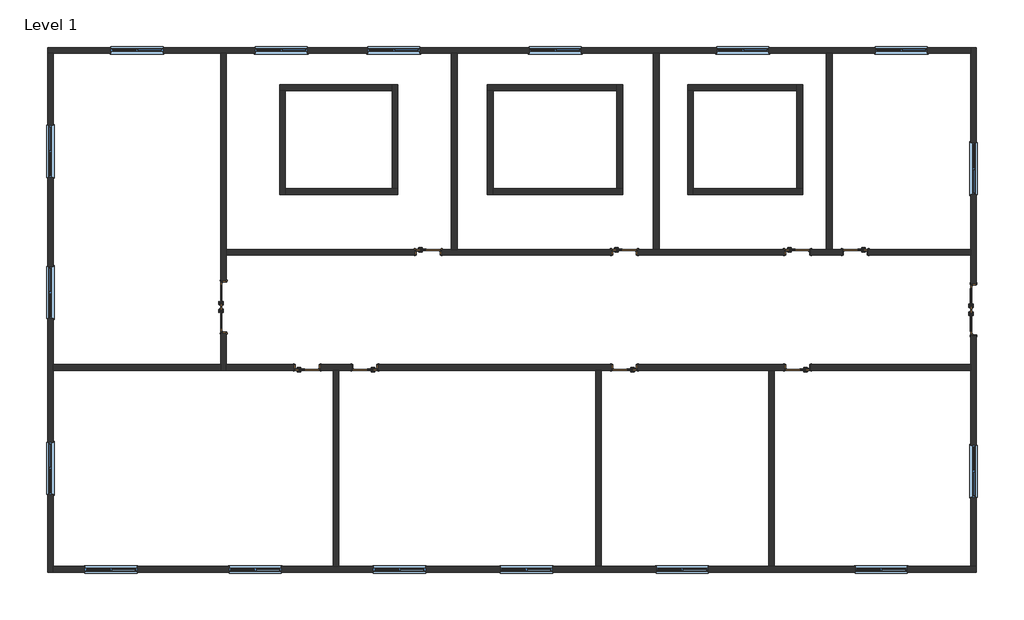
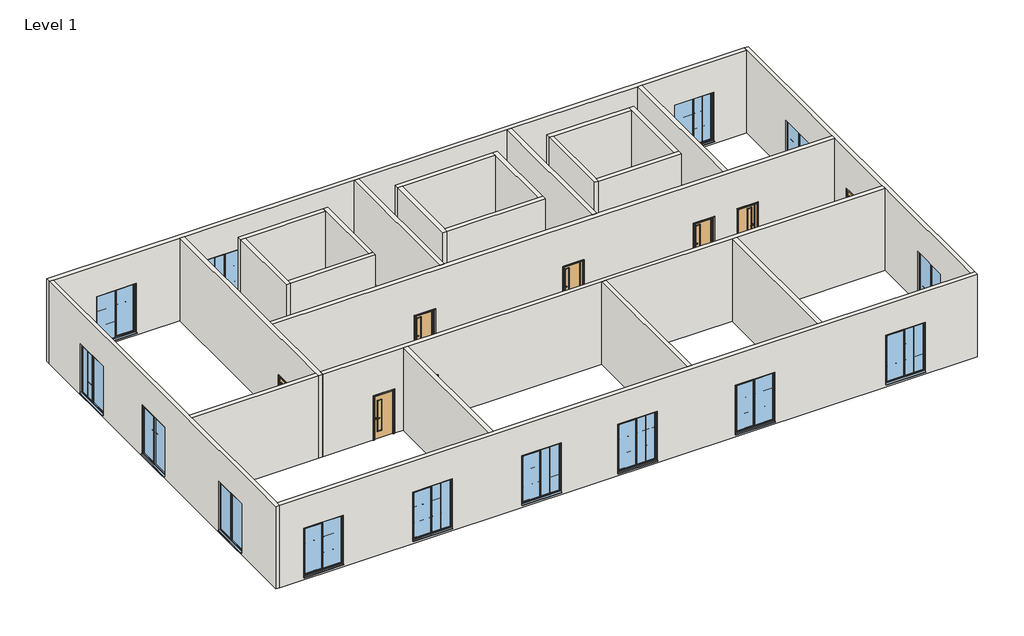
# One storey: 26 walls, 17 windows, 10 doors.
"""IFC4 building model written with IfcOpenShell, lengths in millimetres."""

from ifc_helpers import new_model, si_unit, origin, origin_with_axes, place, context, project, spatial, polyline, outline, extrude, faceted_brep, transform, mapped, element, save
from components import doors_intdbl_8_1810x2110mm_084b1bbc, doors_intsgl_2_910x2110mm_9519ea66, doors_intsgl_2_910x2110mm_8edc93dc, windows_dbl_all_bars_1810x1210mm_8c694ecc

model = new_model("IFC4")

# Units and contexts
model_context = context("Model", 3, world=origin())
ifc_project = project(units=[si_unit("LENGTHUNIT", "METRE", prefix="MILLI")], contexts=[model_context])

# Site, building, storey
site = spatial("IfcSite", under=ifc_project)
building = spatial("IfcBuilding", under=site)
storey = spatial("IfcBuildingStorey", under=building, Name="Level 1", Elevation=0.0)

# Doors
placement = place(None, origin())
doors_intdbl_8_1810x2110mm_shape = doors_intdbl_8_1810x2110mm_084b1bbc(model_context)
element("IfcDoor", 1, ObjectType="Doors_IntDbl_8 : 1810x2110mm", at=placement, inside=storey, context=model_context, shape_type="MappedRepresentation", body=[
    mapped(doors_intdbl_8_1810x2110mm_shape, transform((17959.8077466, 354.5213934, 0.0), x_axis=(0.0, 1.0, 0.0), y_axis=(-1.0, 0.0, 0.0), z_axis=(0.0, 0.0, 1.0))),
])
element("IfcDoor", 2, ObjectType="Doors_IntDbl_8 : 1810x2110mm", at=placement, inside=storey, context=model_context, shape_type="MappedRepresentation", body=[
    mapped(doors_intdbl_8_1810x2110mm_shape, transform((-8040.1922534, 454.5213934, 0.0), x_axis=(0.0, 1.0, 0.0), y_axis=(-1.0, 0.0, 0.0), z_axis=(0.0, 0.0, 1.0))),
])
doors_intsgl_2_910x2110mm_shape = doors_intsgl_2_910x2110mm_9519ea66(model_context)
element("IfcDoor", 3, ObjectType="Doors_IntSgl_2 : 910x2110mm", at=placement, inside=storey, context=model_context, shape_type="MappedRepresentation", body=[
    mapped(doors_intsgl_2_910x2110mm_shape, transform((-5140.1922534, -1645.4786066, 0.0), x_axis=(1.0, 0.0, 0.0), y_axis=(0.0, 1.0, 0.0), z_axis=(0.0, 0.0, 1.0))),
])
element("IfcDoor", 4, ObjectType="Doors_IntSgl_2 : 910x2110mm", at=placement, inside=storey, context=model_context, shape_type="MappedRepresentation", body=[
    mapped(doors_intsgl_2_910x2110mm_shape, transform((13859.8077466, 2354.5213934, 0.0), x_axis=(-1.0, 0.0, 0.0), y_axis=(0.0, -1.0, 0.0), z_axis=(0.0, 0.0, 1.0))),
])
doors_intsgl_2_910x2110mm_2_shape = doors_intsgl_2_910x2110mm_8edc93dc(model_context)
element("IfcDoor", 5, ObjectType="Doors_IntSgl_2 : 910x2110mm", at=placement, inside=storey, context=model_context, shape_type="MappedRepresentation", body=[
    mapped(doors_intsgl_2_910x2110mm_2_shape, transform((-940.1922534, 2354.5213934, 0.0), x_axis=(1.0, 0.0, 0.0), y_axis=(0.0, 1.0, 0.0), z_axis=(0.0, 0.0, 1.0))),
])
element("IfcDoor", 6, ObjectType="Doors_IntSgl_2 : 910x2110mm", at=placement, inside=storey, context=model_context, shape_type="MappedRepresentation", body=[
    mapped(doors_intsgl_2_910x2110mm_2_shape, transform((5859.8077466, 2354.5213934, 0.0), x_axis=(1.0, 0.0, 0.0), y_axis=(0.0, 1.0, 0.0), z_axis=(0.0, 0.0, 1.0))),
])
element("IfcDoor", 7, ObjectType="Doors_IntSgl_2 : 910x2110mm", at=placement, inside=storey, context=model_context, shape_type="MappedRepresentation", body=[
    mapped(doors_intsgl_2_910x2110mm_2_shape, transform((11859.8077466, 2354.5213934, 0.0), x_axis=(1.0, 0.0, 0.0), y_axis=(0.0, 1.0, 0.0), z_axis=(0.0, 0.0, 1.0))),
])
element("IfcDoor", 8, ObjectType="Doors_IntSgl_2 : 910x2110mm", at=placement, inside=storey, context=model_context, shape_type="MappedRepresentation", body=[
    mapped(doors_intsgl_2_910x2110mm_2_shape, transform((11859.8077466, -1645.4786066, 0.0), x_axis=(-1.0, 0.0, 0.0), y_axis=(0.0, -1.0, 0.0), z_axis=(0.0, 0.0, 1.0))),
])
element("IfcDoor", 9, ObjectType="Doors_IntSgl_2 : 910x2110mm", at=placement, inside=storey, context=model_context, shape_type="MappedRepresentation", body=[
    mapped(doors_intsgl_2_910x2110mm_2_shape, transform((5859.8077466, -1645.4786066, 0.0), x_axis=(-1.0, 0.0, 0.0), y_axis=(0.0, -1.0, 0.0), z_axis=(0.0, 0.0, 1.0))),
])
element("IfcDoor", 10, ObjectType="Doors_IntSgl_2 : 910x2110mm", at=placement, inside=storey, context=model_context, shape_type="MappedRepresentation", body=[
    mapped(doors_intsgl_2_910x2110mm_2_shape, transform((-3140.1922534, -1645.4786066, 0.0), x_axis=(-1.0, 0.0, 0.0), y_axis=(0.0, -1.0, 0.0), z_axis=(0.0, 0.0, 1.0))),
])

# Walls
element("IfcWall", 11, ObjectType="Generic - 200mm", at=placement, inside=storey, context=model_context, shape_type="Brep", body=[
    faceted_brep([(-14140.1922534, 9254.5213934, 0.0), (-13940.1922534, 9254.5213934, 0.0), (-8140.1922534, 9254.5213934, 0.0), (-7940.1922534, 9254.5213934, 0.0), (-140.1922534, 9254.5213934, 0.0), (59.8077466, 9254.5213934, 0.0), (6859.8077466, 9254.5213934, 0.0), (7059.8077466, 9254.5213934, 0.0), (12859.8077466, 9254.5213934, 0.0), (13059.8077466, 9254.5213934, 0.0), (17859.8077466, 9254.5213934, 0.0), (17859.8077466, 9254.5213934, 4000.0), (13059.8077466, 9254.5213934, 4000.0), (12859.8077466, 9254.5213934, 4000.0), (7059.8077466, 9254.5213934, 4000.0), (6859.8077466, 9254.5213934, 4000.0), (59.8077466, 9254.5213934, 4000.0), (-140.1922534, 9254.5213934, 4000.0), (-7940.1922534, 9254.5213934, 4000.0), (-8140.1922534, 9254.5213934, 4000.0), (-13940.1922534, 9254.5213934, 4000.0), (-14140.1922534, 9254.5213934, 4000.0), (-11945.1922534, 9254.5213934, 100.0), (-11945.1922534, 9254.5213934, 2500.0), (-10135.1922534, 9254.5213934, 2500.0), (-10135.1922534, 9254.5213934, 100.0), (-6945.1922534, 9254.5213934, 100.0), (-6945.1922534, 9254.5213934, 2500.0), (-5135.1922534, 9254.5213934, 2500.0), (-5135.1922534, 9254.5213934, 100.0), (-3045.1922534, 9254.5213934, 100.0), (-3045.1922534, 9254.5213934, 2500.0), (-1235.1922534, 9254.5213934, 2500.0), (-1235.1922534, 9254.5213934, 100.0), (2554.8077466, 9254.5213934, 100.0), (2554.8077466, 9254.5213934, 2500.0), (4364.8077466, 9254.5213934, 2500.0), (4364.8077466, 9254.5213934, 100.0), (9054.8077466, 9254.5213934, 100.0), (9054.8077466, 9254.5213934, 2500.0), (10864.8077466, 9254.5213934, 2500.0), (10864.8077466, 9254.5213934, 100.0), (14554.8077466, 9254.5213934, 100.0), (14554.8077466, 9254.5213934, 2500.0), (16364.8077466, 9254.5213934, 2500.0), (16364.8077466, 9254.5213934, 100.0), (17859.8077466, 9454.5213934, 0.0), (-14140.1922534, 9454.5213934, 0.0), (-14140.1922534, 9454.5213934, 4000.0), (17859.8077466, 9454.5213934, 4000.0), (-11945.1922534, 9454.5213934, 2500.0), (-11945.1922534, 9454.5213934, 100.0), (-10135.1922534, 9454.5213934, 100.0), (-10135.1922534, 9454.5213934, 2500.0), (-6945.1922534, 9454.5213934, 2500.0), (-6945.1922534, 9454.5213934, 100.0), (-5135.1922534, 9454.5213934, 100.0), (-5135.1922534, 9454.5213934, 2500.0), (-3045.1922534, 9454.5213934, 2500.0), (-3045.1922534, 9454.5213934, 100.0), (-1235.1922534, 9454.5213934, 100.0), (-1235.1922534, 9454.5213934, 2500.0), (2554.8077466, 9454.5213934, 2500.0), (2554.8077466, 9454.5213934, 100.0), (4364.8077466, 9454.5213934, 100.0), (4364.8077466, 9454.5213934, 2500.0), (9054.8077466, 9454.5213934, 2500.0), (9054.8077466, 9454.5213934, 100.0), (10864.8077466, 9454.5213934, 100.0), (10864.8077466, 9454.5213934, 2500.0), (14554.8077466, 9454.5213934, 2500.0), (14554.8077466, 9454.5213934, 100.0), (16364.8077466, 9454.5213934, 100.0), (16364.8077466, 9454.5213934, 2500.0)], [[[0, 1, 2, 3, 4, 5, 6, 7, 8, 9, 10, 11, 12, 13, 14, 15, 16, 17, 18, 19, 20, 21], [22, 23, 24, 25], [26, 27, 28, 29], [30, 31, 32, 33], [34, 35, 36, 37], [38, 39, 40, 41], [42, 43, 44, 45]], [[46, 47, 48, 49], [50, 51, 52, 53], [54, 55, 56, 57], [58, 59, 60, 61], [62, 63, 64, 65], [66, 67, 68, 69], [70, 71, 72, 73]], [[10, 9, 8, 7, 6, 5, 4, 3, 2, 1, 0, 47, 46]], [[21, 20, 19, 18, 17, 16, 15, 14, 13, 12, 11, 49, 48]], [[0, 21, 48, 47]], [[11, 10, 46, 49]], [[50, 23, 22, 51]], [[24, 53, 52, 25]], [[23, 50, 53, 24]], [[54, 27, 26, 55]], [[28, 57, 56, 29]], [[27, 54, 57, 28]], [[58, 31, 30, 59]], [[32, 61, 60, 33]], [[31, 58, 61, 32]], [[62, 35, 34, 63]], [[36, 65, 64, 37]], [[35, 62, 65, 36]], [[66, 39, 38, 67]], [[40, 69, 68, 41]], [[39, 66, 69, 40]], [[70, 43, 42, 71]], [[72, 45, 44, 73]], [[43, 70, 73, 44]], [[25, 52, 51, 22]], [[29, 56, 55, 26]], [[33, 60, 59, 30]], [[37, 64, 63, 34]], [[41, 68, 67, 38]], [[45, 72, 71, 42]]]),
])
element("IfcWall", 12, ObjectType="Generic - 200mm", at=placement, inside=storey, context=model_context, shape_type="Brep", body=[
    faceted_brep([(-13940.1922534, -8745.4786066, 0.0), (-13940.1922534, -8545.4786066, 0.0), (-13940.1922534, -1745.4786066, 0.0), (-13940.1922534, -1545.4786066, 0.0), (-13940.1922534, 9254.5213934, 0.0), (-13940.1922534, 9254.5213934, 4000.0), (-13940.1922534, -1545.4786066, 4000.0), (-13940.1922534, -1745.4786066, 4000.0), (-13940.1922534, -8545.4786066, 4000.0), (-13940.1922534, -8745.4786066, 4000.0), (-13940.1922534, -6050.4786066, 100.0), (-13940.1922534, -6050.4786066, 2500.0), (-13940.1922534, -4240.4786066, 2500.0), (-13940.1922534, -4240.4786066, 100.0), (-13940.1922534, 49.5213934, 100.0), (-13940.1922534, 49.5213934, 2500.0), (-13940.1922534, 1859.5213934, 2500.0), (-13940.1922534, 1859.5213934, 100.0), (-13940.1922534, 4949.5213934, 100.0), (-13940.1922534, 4949.5213934, 2500.0), (-13940.1922534, 6759.5213934, 2500.0), (-13940.1922534, 6759.5213934, 100.0), (-14140.1922534, 9254.5213934, 0.0), (-14140.1922534, -8745.4786066, 0.0), (-14140.1922534, -8745.4786066, 4000.0), (-14140.1922534, 9254.5213934, 4000.0), (-14140.1922534, -6050.4786066, 2500.0), (-14140.1922534, -6050.4786066, 100.0), (-14140.1922534, -4240.4786066, 100.0), (-14140.1922534, -4240.4786066, 2500.0), (-14140.1922534, 49.5213934, 2500.0), (-14140.1922534, 49.5213934, 100.0), (-14140.1922534, 1859.5213934, 100.0), (-14140.1922534, 1859.5213934, 2500.0), (-14140.1922534, 4949.5213934, 2500.0), (-14140.1922534, 4949.5213934, 100.0), (-14140.1922534, 6759.5213934, 100.0), (-14140.1922534, 6759.5213934, 2500.0)], [[[0, 1, 2, 3, 4, 5, 6, 7, 8, 9], [10, 11, 12, 13], [14, 15, 16, 17], [18, 19, 20, 21]], [[22, 23, 24, 25], [26, 27, 28, 29], [30, 31, 32, 33], [34, 35, 36, 37]], [[4, 3, 2, 1, 0, 23, 22]], [[9, 8, 7, 6, 5, 25, 24]], [[0, 9, 24, 23]], [[5, 4, 22, 25]], [[26, 11, 10, 27]], [[12, 29, 28, 13]], [[11, 26, 29, 12]], [[30, 15, 14, 31]], [[16, 33, 32, 17]], [[15, 30, 33, 16]], [[34, 19, 18, 35]], [[36, 21, 20, 37]], [[19, 34, 37, 20]], [[13, 28, 27, 10]], [[17, 32, 31, 14]], [[21, 36, 35, 18]]]),
])
element("IfcWall", 13, ObjectType="Generic - 200mm", at=placement, inside=storey, context=model_context, shape_type="Brep", body=[
    faceted_brep([(18059.8077466, -8545.4786066, 0.0), (17859.8077466, -8545.4786066, 0.0), (11059.8077466, -8545.4786066, 0.0), (10859.8077466, -8545.4786066, 0.0), (5059.8077466, -8545.4786066, 0.0), (4859.8077466, -8545.4786066, 0.0), (-4040.1922534, -8545.4786066, 0.0), (-4240.1922534, -8545.4786066, 0.0), (-13940.1922534, -8545.4786066, 0.0), (-13940.1922534, -8545.4786066, 4000.0), (-4240.1922534, -8545.4786066, 4000.0), (-4040.1922534, -8545.4786066, 4000.0), (4859.8077466, -8545.4786066, 4000.0), (5059.8077466, -8545.4786066, 4000.0), (10859.8077466, -8545.4786066, 4000.0), (11059.8077466, -8545.4786066, 4000.0), (17859.8077466, -8545.4786066, 4000.0), (18059.8077466, -8545.4786066, 4000.0), (-11035.1922534, -8545.4786066, 2500.0), (-12845.1922534, -8545.4786066, 2500.0), (-12845.1922534, -8545.4786066, 100.0), (-11035.1922534, -8545.4786066, 100.0), (-6035.1922534, -8545.4786066, 2500.0), (-7845.1922534, -8545.4786066, 2500.0), (-7845.1922534, -8545.4786066, 100.0), (-6035.1922534, -8545.4786066, 100.0), (-1035.1922534, -8545.4786066, 2500.0), (-2845.1922534, -8545.4786066, 2500.0), (-2845.1922534, -8545.4786066, 100.0), (-1035.1922534, -8545.4786066, 100.0), (3364.8077466, -8545.4786066, 2500.0), (1554.8077466, -8545.4786066, 2500.0), (1554.8077466, -8545.4786066, 100.0), (3364.8077466, -8545.4786066, 100.0), (8764.8077466, -8545.4786066, 2500.0), (6954.8077466, -8545.4786066, 2500.0), (6954.8077466, -8545.4786066, 100.0), (8764.8077466, -8545.4786066, 100.0), (15664.8077466, -8545.4786066, 2500.0), (13854.8077466, -8545.4786066, 2500.0), (13854.8077466, -8545.4786066, 100.0), (15664.8077466, -8545.4786066, 100.0), (18059.8077466, -8745.4786066, 0.0), (18059.8077466, -8745.4786066, 4000.0), (-13940.1922534, -8745.4786066, 4000.0), (-13940.1922534, -8745.4786066, 0.0), (-11035.1922534, -8745.4786066, 2500.0), (-11035.1922534, -8745.4786066, 100.0), (-12845.1922534, -8745.4786066, 100.0), (-12845.1922534, -8745.4786066, 2500.0), (-6035.1922534, -8745.4786066, 2500.0), (-6035.1922534, -8745.4786066, 100.0), (-7845.1922534, -8745.4786066, 100.0), (-7845.1922534, -8745.4786066, 2500.0), (-1035.1922534, -8745.4786066, 2500.0), (-1035.1922534, -8745.4786066, 100.0), (-2845.1922534, -8745.4786066, 100.0), (-2845.1922534, -8745.4786066, 2500.0), (3364.8077466, -8745.4786066, 2500.0), (3364.8077466, -8745.4786066, 100.0), (1554.8077466, -8745.4786066, 100.0), (1554.8077466, -8745.4786066, 2500.0), (8764.8077466, -8745.4786066, 2500.0), (8764.8077466, -8745.4786066, 100.0), (6954.8077466, -8745.4786066, 100.0), (6954.8077466, -8745.4786066, 2500.0), (15664.8077466, -8745.4786066, 2500.0), (15664.8077466, -8745.4786066, 100.0), (13854.8077466, -8745.4786066, 100.0), (13854.8077466, -8745.4786066, 2500.0)], [[[0, 1, 2, 3, 4, 5, 6, 7, 8, 9, 10, 11, 12, 13, 14, 15, 16, 17], [18, 19, 20, 21], [22, 23, 24, 25], [26, 27, 28, 29], [30, 31, 32, 33], [34, 35, 36, 37], [38, 39, 40, 41]], [[42, 43, 44, 45], [46, 47, 48, 49], [50, 51, 52, 53], [54, 55, 56, 57], [58, 59, 60, 61], [62, 63, 64, 65], [66, 67, 68, 69]], [[8, 7, 6, 5, 4, 3, 2, 1, 0, 42, 45]], [[17, 16, 15, 14, 13, 12, 11, 10, 9, 44, 43]], [[0, 17, 43, 42]], [[9, 8, 45, 44]], [[47, 46, 18, 21]], [[48, 47, 21, 20]], [[49, 48, 20, 19]], [[46, 49, 19, 18]], [[51, 50, 22, 25]], [[52, 51, 25, 24]], [[53, 52, 24, 23]], [[50, 53, 23, 22]], [[55, 54, 26, 29]], [[56, 55, 29, 28]], [[57, 56, 28, 27]], [[54, 57, 27, 26]], [[59, 58, 30, 33]], [[60, 59, 33, 32]], [[61, 60, 32, 31]], [[58, 61, 31, 30]], [[63, 62, 34, 37]], [[64, 63, 37, 36]], [[65, 64, 36, 35]], [[62, 65, 35, 34]], [[67, 66, 38, 41]], [[68, 67, 41, 40]], [[69, 68, 40, 39]], [[66, 69, 39, 38]]]),
])
element("IfcWall", 14, ObjectType="Generic - 200mm", at=placement, inside=storey, context=model_context, shape_type="Brep", body=[
    faceted_brep([(17859.8077466, -8545.4786066, 4000.0), (17859.8077466, -1745.4786066, 4000.0), (17859.8077466, -1545.4786066, 4000.0), (17859.8077466, 2254.5213934, 4000.0), (17859.8077466, 2454.5213934, 4000.0), (17859.8077466, 9254.5213934, 4000.0), (17859.8077466, 9454.5213934, 4000.0), (17859.8077466, 9454.5213934, 0.0), (17859.8077466, 9254.5213934, 0.0), (17859.8077466, 2454.5213934, 0.0), (17859.8077466, 2254.5213934, 0.0), (17859.8077466, 1259.5213934, 0.0), (17859.8077466, 1259.5213934, 2110.0), (17859.8077466, -550.4786066, 2110.0), (17859.8077466, -550.4786066, 0.0), (17859.8077466, -1545.4786066, 0.0), (17859.8077466, -1745.4786066, 0.0), (17859.8077466, -8545.4786066, 0.0), (17859.8077466, 6159.5213934, 100.0), (17859.8077466, 6159.5213934, 2500.0), (17859.8077466, 4349.5213934, 2500.0), (17859.8077466, 4349.5213934, 100.0), (17859.8077466, -4340.4786066, 100.0), (17859.8077466, -4340.4786066, 2500.0), (17859.8077466, -6150.4786066, 2500.0), (17859.8077466, -6150.4786066, 100.0), (18059.8077466, 9454.5213934, 4000.0), (18059.8077466, -8545.4786066, 4000.0), (18059.8077466, -8545.4786066, 0.0), (18059.8077466, -550.4786066, 0.0), (18059.8077466, -550.4786066, 2110.0), (18059.8077466, 1259.5213934, 2110.0), (18059.8077466, 1259.5213934, 0.0), (18059.8077466, 9454.5213934, 0.0), (18059.8077466, 6159.5213934, 2500.0), (18059.8077466, 6159.5213934, 100.0), (18059.8077466, 4349.5213934, 100.0), (18059.8077466, 4349.5213934, 2500.0), (18059.8077466, -4340.4786066, 2500.0), (18059.8077466, -4340.4786066, 100.0), (18059.8077466, -6150.4786066, 100.0), (18059.8077466, -6150.4786066, 2500.0)], [[[0, 1, 2, 3, 4, 5, 6, 7, 8, 9, 10, 11, 12, 13, 14, 15, 16, 17], [18, 19, 20, 21], [22, 23, 24, 25]], [[26, 27, 28, 29, 30, 31, 32, 33], [34, 35, 36, 37], [38, 39, 40, 41]], [[7, 33, 32, 11, 10, 9, 8]], [[28, 17, 16, 15, 14, 29]], [[6, 5, 4, 3, 2, 1, 0, 27, 26]], [[7, 6, 26, 33]], [[0, 17, 28, 27]], [[12, 11, 32, 31]], [[13, 12, 31, 30]], [[14, 13, 30, 29]], [[34, 19, 18, 35]], [[20, 37, 36, 21]], [[19, 34, 37, 20]], [[38, 23, 22, 39]], [[40, 25, 24, 41]], [[23, 38, 41, 24]], [[21, 36, 35, 18]], [[25, 40, 39, 22]]]),
])
element("IfcWall", 15, ObjectType="Generic - 200mm", at=placement, inside=storey, context=model_context, shape_type="Brep", body=[
    faceted_brep([(-8140.1922534, -1745.4786066, 4000.0), (-8140.1922534, -1545.4786066, 4000.0), (-8140.1922534, 9254.5213934, 4000.0), (-8140.1922534, 9254.5213934, 0.0), (-8140.1922534, 1359.5213934, 0.0), (-8140.1922534, 1359.5213934, 2110.0), (-8140.1922534, -450.4786066, 2110.0), (-8140.1922534, -450.4786066, 0.0), (-8140.1922534, -1545.4786066, 0.0), (-8140.1922534, -1745.4786066, 0.0), (-7940.1922534, 9254.5213934, 4000.0), (-7940.1922534, 2454.5213934, 4000.0), (-7940.1922534, 2254.5213934, 4000.0), (-7940.1922534, -1545.4786066, 4000.0), (-7940.1922534, -1745.4786066, 4000.0), (-7940.1922534, -1745.4786066, 0.0), (-7940.1922534, -1545.4786066, 0.0), (-7940.1922534, -450.4786066, 0.0), (-7940.1922534, -450.4786066, 2110.0), (-7940.1922534, 1359.5213934, 2110.0), (-7940.1922534, 1359.5213934, 0.0), (-7940.1922534, 2254.5213934, 0.0), (-7940.1922534, 2454.5213934, 0.0), (-7940.1922534, 9254.5213934, 0.0)], [[[0, 1, 2, 3, 4, 5, 6, 7, 8, 9]], [[10, 11, 12, 13, 14, 15, 16, 17, 18, 19, 20, 21, 22, 23]], [[3, 23, 22, 21, 20, 4]], [[15, 9, 8, 7, 17, 16]], [[2, 1, 0, 14, 13, 12, 11, 10]], [[3, 2, 10, 23]], [[0, 9, 15, 14]], [[19, 5, 4, 20]], [[5, 19, 18, 6]], [[6, 18, 17, 7]]]),
])
element("IfcWall", 16, ObjectType="Generic - 200mm", at=placement, inside=storey, context=model_context, shape_type="Brep", body=[
    faceted_brep([(17859.8077466, 2254.5213934, 4000.0), (-7940.1922534, 2254.5213934, 4000.0), (-7940.1922534, 2254.5213934, 0.0), (-1395.1922534, 2254.5213934, 0.0), (-1395.1922534, 2254.5213934, 2110.0), (-485.1922534, 2254.5213934, 2110.0), (-485.1922534, 2254.5213934, 0.0), (5404.8077466, 2254.5213934, 0.0), (5404.8077466, 2254.5213934, 2110.0), (6314.8077466, 2254.5213934, 2110.0), (6314.8077466, 2254.5213934, 0.0), (11404.8077466, 2254.5213934, 0.0), (11404.8077466, 2254.5213934, 2110.0), (12314.8077466, 2254.5213934, 2110.0), (12314.8077466, 2254.5213934, 0.0), (13404.8077466, 2254.5213934, 0.0), (13404.8077466, 2254.5213934, 2110.0), (14314.8077466, 2254.5213934, 2110.0), (14314.8077466, 2254.5213934, 0.0), (17859.8077466, 2254.5213934, 0.0), (-7940.1922534, 2454.5213934, 4000.0), (-140.1922534, 2454.5213934, 4000.0), (59.8077466, 2454.5213934, 4000.0), (6859.8077466, 2454.5213934, 4000.0), (7059.8077466, 2454.5213934, 4000.0), (12859.8077466, 2454.5213934, 4000.0), (13059.8077466, 2454.5213934, 4000.0), (17859.8077466, 2454.5213934, 4000.0), (17859.8077466, 2454.5213934, 0.0), (14314.8077466, 2454.5213934, 0.0), (14314.8077466, 2454.5213934, 2110.0), (13404.8077466, 2454.5213934, 2110.0), (13404.8077466, 2454.5213934, 0.0), (13059.8077466, 2454.5213934, 0.0), (12859.8077466, 2454.5213934, 0.0), (12314.8077466, 2454.5213934, 0.0), (12314.8077466, 2454.5213934, 2110.0), (11404.8077466, 2454.5213934, 2110.0), (11404.8077466, 2454.5213934, 0.0), (7059.8077466, 2454.5213934, 0.0), (6859.8077466, 2454.5213934, 0.0), (6314.8077466, 2454.5213934, 0.0), (6314.8077466, 2454.5213934, 2110.0), (5404.8077466, 2454.5213934, 2110.0), (5404.8077466, 2454.5213934, 0.0), (59.8077466, 2454.5213934, 0.0), (-140.1922534, 2454.5213934, 0.0), (-485.1922534, 2454.5213934, 0.0), (-485.1922534, 2454.5213934, 2110.0), (-1395.1922534, 2454.5213934, 2110.0), (-1395.1922534, 2454.5213934, 0.0), (-7940.1922534, 2454.5213934, 0.0)], [[[0, 1, 2, 3, 4, 5, 6, 7, 8, 9, 10, 11, 12, 13, 14, 15, 16, 17, 18, 19]], [[20, 21, 22, 23, 24, 25, 26, 27, 28, 29, 30, 31, 32, 33, 34, 35, 36, 37, 38, 39, 40, 41, 42, 43, 44, 45, 46, 47, 48, 49, 50, 51]], [[2, 51, 50, 3]], [[28, 19, 18, 29]], [[6, 47, 46, 45, 44, 7]], [[10, 41, 40, 39, 38, 11]], [[14, 35, 34, 33, 32, 15]], [[1, 0, 27, 26, 25, 24, 23, 22, 21, 20]], [[0, 19, 28, 27]], [[2, 1, 20, 51]], [[5, 48, 47, 6]], [[48, 5, 4, 49]], [[49, 4, 3, 50]], [[9, 42, 41, 10]], [[42, 9, 8, 43]], [[43, 8, 7, 44]], [[13, 36, 35, 14]], [[36, 13, 12, 37]], [[37, 12, 11, 38]], [[31, 16, 15, 32]], [[16, 31, 30, 17]], [[17, 30, 29, 18]]]),
])
element("IfcWall", 17, ObjectType="Generic - 200mm", at=placement, inside=storey, context=model_context, shape_type="Brep", body=[
    faceted_brep([(17859.8077466, -1745.4786066, 4000.0), (11059.8077466, -1745.4786066, 4000.0), (10859.8077466, -1745.4786066, 4000.0), (5059.8077466, -1745.4786066, 4000.0), (4859.8077466, -1745.4786066, 4000.0), (-4040.1922534, -1745.4786066, 4000.0), (-4240.1922534, -1745.4786066, 4000.0), (-7940.1922534, -1745.4786066, 4000.0), (-7940.1922534, -1745.4786066, 0.0), (-5595.1922534, -1745.4786066, 0.0), (-5595.1922534, -1745.4786066, 2110.0), (-4685.1922534, -1745.4786066, 2110.0), (-4685.1922534, -1745.4786066, 0.0), (-4240.1922534, -1745.4786066, 0.0), (-4040.1922534, -1745.4786066, 0.0), (-3595.1922534, -1745.4786066, 0.0), (-3595.1922534, -1745.4786066, 2110.0), (-2685.1922534, -1745.4786066, 2110.0), (-2685.1922534, -1745.4786066, 0.0), (4859.8077466, -1745.4786066, 0.0), (5059.8077466, -1745.4786066, 0.0), (5404.8077466, -1745.4786066, 0.0), (5404.8077466, -1745.4786066, 2110.0), (6314.8077466, -1745.4786066, 2110.0), (6314.8077466, -1745.4786066, 0.0), (10859.8077466, -1745.4786066, 0.0), (11059.8077466, -1745.4786066, 0.0), (11404.8077466, -1745.4786066, 0.0), (11404.8077466, -1745.4786066, 2110.0), (12314.8077466, -1745.4786066, 2110.0), (12314.8077466, -1745.4786066, 0.0), (17859.8077466, -1745.4786066, 0.0), (-7940.1922534, -1545.4786066, 4000.0), (17859.8077466, -1545.4786066, 4000.0), (17859.8077466, -1545.4786066, 0.0), (12314.8077466, -1545.4786066, 0.0), (12314.8077466, -1545.4786066, 2110.0), (11404.8077466, -1545.4786066, 2110.0), (11404.8077466, -1545.4786066, 0.0), (6314.8077466, -1545.4786066, 0.0), (6314.8077466, -1545.4786066, 2110.0), (5404.8077466, -1545.4786066, 2110.0), (5404.8077466, -1545.4786066, 0.0), (-2685.1922534, -1545.4786066, 0.0), (-2685.1922534, -1545.4786066, 2110.0), (-3595.1922534, -1545.4786066, 2110.0), (-3595.1922534, -1545.4786066, 0.0), (-4685.1922534, -1545.4786066, 0.0), (-4685.1922534, -1545.4786066, 2110.0), (-5595.1922534, -1545.4786066, 2110.0), (-5595.1922534, -1545.4786066, 0.0), (-7940.1922534, -1545.4786066, 0.0)], [[[0, 1, 2, 3, 4, 5, 6, 7, 8, 9, 10, 11, 12, 13, 14, 15, 16, 17, 18, 19, 20, 21, 22, 23, 24, 25, 26, 27, 28, 29, 30, 31]], [[32, 33, 34, 35, 36, 37, 38, 39, 40, 41, 42, 43, 44, 45, 46, 47, 48, 49, 50, 51]], [[34, 31, 30, 35]], [[8, 51, 50, 9]], [[12, 47, 46, 15, 14, 13]], [[38, 27, 26, 25, 24, 39]], [[42, 21, 20, 19, 18, 43]], [[7, 6, 5, 4, 3, 2, 1, 0, 33, 32]], [[0, 31, 34, 33]], [[8, 7, 32, 51]], [[11, 48, 47, 12]], [[48, 11, 10, 49]], [[49, 10, 9, 50]], [[37, 28, 27, 38]], [[28, 37, 36, 29]], [[29, 36, 35, 30]], [[41, 22, 21, 42]], [[22, 41, 40, 23]], [[23, 40, 39, 24]], [[45, 16, 15, 46]], [[16, 45, 44, 17]], [[17, 44, 43, 18]]]),
])
element("IfcWall", 18, ObjectType="Generic - 200mm", at=placement, inside=storey, context=model_context, shape_type="SweptSolid", body=[
    extrude(outline(polyline([(59.8077466, 9254.5213934), (59.8077466, 2454.5213934), (-140.1922534, 2454.5213934), (-140.1922534, 9254.5213934), (59.8077466, 9254.5213934)])), origin_with_axes(), (0.0, 0.0, 1.0), 4000.0),
])
element("IfcWall", 19, ObjectType="Generic - 200mm", at=placement, inside=storey, context=model_context, shape_type="SweptSolid", body=[
    extrude(outline(polyline([(7059.8077466, 9254.5213934), (7059.8077466, 2454.5213934), (6859.8077466, 2454.5213934), (6859.8077466, 9254.5213934), (7059.8077466, 9254.5213934)])), origin_with_axes(), (0.0, 0.0, 1.0), 4000.0),
])
element("IfcWall", 20, ObjectType="Generic - 200mm", at=placement, inside=storey, context=model_context, shape_type="SweptSolid", body=[
    extrude(outline(polyline([(13059.8077466, 9254.5213934), (13059.8077466, 2454.5213934), (12859.8077466, 2454.5213934), (12859.8077466, 9254.5213934), (13059.8077466, 9254.5213934)])), origin_with_axes(), (0.0, 0.0, 1.0), 4000.0),
])
element("IfcWall", 21, ObjectType="Generic - 200mm", at=placement, inside=storey, context=model_context, shape_type="SweptSolid", body=[
    extrude(outline(polyline([(-4240.1922534, -8545.4786066), (-4240.1922534, -1745.4786066), (-4040.1922534, -1745.4786066), (-4040.1922534, -8545.4786066), (-4240.1922534, -8545.4786066)])), origin_with_axes(), (0.0, 0.0, 1.0), 4000.0),
])
element("IfcWall", 22, ObjectType="Generic - 200mm", at=placement, inside=storey, context=model_context, shape_type="SweptSolid", body=[
    extrude(outline(polyline([(4859.8077466, -8545.4786066), (4859.8077466, -1745.4786066), (5059.8077466, -1745.4786066), (5059.8077466, -8545.4786066), (4859.8077466, -8545.4786066)])), origin_with_axes(), (0.0, 0.0, 1.0), 4000.0),
])
element("IfcWall", 23, ObjectType="Generic - 200mm", at=placement, inside=storey, context=model_context, shape_type="SweptSolid", body=[
    extrude(outline(polyline([(10859.8077466, -8545.4786066), (10859.8077466, -1745.4786066), (11059.8077466, -1745.4786066), (11059.8077466, -8545.4786066), (10859.8077466, -8545.4786066)])), origin_with_axes(), (0.0, 0.0, 1.0), 4000.0),
])
element("IfcWall", 24, ObjectType="Generic - 200mm", at=placement, inside=storey, context=model_context, shape_type="SweptSolid", body=[
    extrude(outline(polyline([(-13940.1922534, -1545.4786066), (-8140.1922534, -1545.4786066), (-8140.1922534, -1745.4786066), (-13940.1922534, -1745.4786066), (-13940.1922534, -1545.4786066)])), origin_with_axes(), (0.0, 0.0, 1.0), 4000.0),
])
element("IfcWall", 25, ObjectType="Generic - 200mm", at=placement, inside=storey, context=model_context, shape_type="Brep", body=[
    faceted_brep([(-6094.5436994, 7960.2061545, 0.0), (-5894.5436994, 7960.2061545, 0.0), (-2194.5436994, 7960.2061545, 0.0), (-2194.5436994, 7960.2061545, 4000.0), (-5894.5436994, 7960.2061545, 4000.0), (-6094.5436994, 7960.2061545, 4000.0), (-6094.5436994, 8160.2061545, 0.0), (-6094.5436994, 8160.2061545, 4000.0), (-2194.5436994, 8160.2061545, 4000.0), (-2194.5436994, 8160.2061545, 0.0)], [[[0, 1, 2, 3, 4, 5]], [[6, 7, 8, 9]], [[2, 1, 0, 6, 9]], [[5, 4, 3, 8, 7]], [[0, 5, 7, 6]], [[3, 2, 9, 8]]]),
])
element("IfcWall", 26, ObjectType="Generic - 200mm", at=placement, inside=storey, context=model_context, shape_type="Brep", body=[
    faceted_brep([(-5894.5436994, 4360.2061545, 0.0), (-5894.5436994, 4560.2061545, 0.0), (-5894.5436994, 7960.2061545, 0.0), (-5894.5436994, 7960.2061545, 4000.0), (-5894.5436994, 4560.2061545, 4000.0), (-5894.5436994, 4360.2061545, 4000.0), (-6094.5436994, 4360.2061545, 0.0), (-6094.5436994, 4360.2061545, 4000.0), (-6094.5436994, 7960.2061545, 4000.0), (-6094.5436994, 7960.2061545, 0.0)], [[[0, 1, 2, 3, 4, 5]], [[6, 7, 8, 9]], [[2, 1, 0, 6, 9]], [[5, 4, 3, 8, 7]], [[0, 5, 7, 6]], [[3, 2, 9, 8]]]),
])
element("IfcWall", 27, ObjectType="Generic - 200mm", at=placement, inside=storey, context=model_context, shape_type="Brep", body=[
    faceted_brep([(-1994.5436994, 4560.2061545, 0.0), (-2194.5436994, 4560.2061545, 0.0), (-5894.5436994, 4560.2061545, 0.0), (-5894.5436994, 4560.2061545, 4000.0), (-2194.5436994, 4560.2061545, 4000.0), (-1994.5436994, 4560.2061545, 4000.0), (-1994.5436994, 4360.2061545, 0.0), (-1994.5436994, 4360.2061545, 4000.0), (-5894.5436994, 4360.2061545, 4000.0), (-5894.5436994, 4360.2061545, 0.0)], [[[0, 1, 2, 3, 4, 5]], [[6, 7, 8, 9]], [[2, 1, 0, 6, 9]], [[5, 4, 3, 8, 7]], [[0, 5, 7, 6]], [[3, 2, 9, 8]]]),
])
element("IfcWall", 28, ObjectType="Generic - 200mm", at=placement, inside=storey, context=model_context, shape_type="Brep", body=[
    faceted_brep([(-2194.5436994, 8160.2061545, 0.0), (-2194.5436994, 7960.2061545, 0.0), (-2194.5436994, 4560.2061545, 0.0), (-2194.5436994, 4560.2061545, 4000.0), (-2194.5436994, 7960.2061545, 4000.0), (-2194.5436994, 8160.2061545, 4000.0), (-1994.5436994, 8160.2061545, 0.0), (-1994.5436994, 8160.2061545, 4000.0), (-1994.5436994, 4560.2061545, 4000.0), (-1994.5436994, 4560.2061545, 0.0)], [[[0, 1, 2, 3, 4, 5]], [[6, 7, 8, 9]], [[2, 1, 0, 6, 9]], [[5, 4, 3, 8, 7]], [[0, 5, 7, 6]], [[3, 2, 9, 8]]]),
])
element("IfcWall", 29, ObjectType="Generic - 200mm", at=placement, inside=storey, context=model_context, shape_type="Brep", body=[
    faceted_brep([(1104.738767, 7960.2061545, 0.0), (1304.738767, 7960.2061545, 0.0), (5592.0585179, 7960.2061545, 0.0), (5592.0585179, 7960.2061545, 4000.0), (1304.738767, 7960.2061545, 4000.0), (1104.738767, 7960.2061545, 4000.0), (1104.738767, 8160.2061545, 0.0), (1104.738767, 8160.2061545, 4000.0), (5592.0585179, 8160.2061545, 4000.0), (5592.0585179, 8160.2061545, 0.0)], [[[0, 1, 2, 3, 4, 5]], [[6, 7, 8, 9]], [[2, 1, 0, 6, 9]], [[5, 4, 3, 8, 7]], [[0, 5, 7, 6]], [[3, 2, 9, 8]]]),
])
element("IfcWall", 30, ObjectType="Generic - 200mm", at=placement, inside=storey, context=model_context, shape_type="Brep", body=[
    faceted_brep([(1304.738767, 4360.2061545, 0.0), (1304.738767, 4560.2061545, 0.0), (1304.738767, 7960.2061545, 0.0), (1304.738767, 7960.2061545, 4000.0), (1304.738767, 4560.2061545, 4000.0), (1304.738767, 4360.2061545, 4000.0), (1104.738767, 4360.2061545, 0.0), (1104.738767, 4360.2061545, 4000.0), (1104.738767, 7960.2061545, 4000.0), (1104.738767, 7960.2061545, 0.0)], [[[0, 1, 2, 3, 4, 5]], [[6, 7, 8, 9]], [[2, 1, 0, 6, 9]], [[5, 4, 3, 8, 7]], [[0, 5, 7, 6]], [[3, 2, 9, 8]]]),
])
element("IfcWall", 31, ObjectType="Generic - 200mm", at=placement, inside=storey, context=model_context, shape_type="Brep", body=[
    faceted_brep([(5792.0585179, 4560.2061545, 0.0), (5592.0585179, 4560.2061545, 0.0), (1304.738767, 4560.2061545, 0.0), (1304.738767, 4560.2061545, 4000.0), (5592.0585179, 4560.2061545, 4000.0), (5792.0585179, 4560.2061545, 4000.0), (5792.0585179, 4360.2061545, 0.0), (5792.0585179, 4360.2061545, 4000.0), (1304.738767, 4360.2061545, 4000.0), (1304.738767, 4360.2061545, 0.0)], [[[0, 1, 2, 3, 4, 5]], [[6, 7, 8, 9]], [[2, 1, 0, 6, 9]], [[5, 4, 3, 8, 7]], [[0, 5, 7, 6]], [[3, 2, 9, 8]]]),
])
element("IfcWall", 32, ObjectType="Generic - 200mm", at=placement, inside=storey, context=model_context, shape_type="Brep", body=[
    faceted_brep([(5592.0585179, 8160.2061545, 0.0), (5592.0585179, 7960.2061545, 0.0), (5592.0585179, 4560.2061545, 0.0), (5592.0585179, 4560.2061545, 4000.0), (5592.0585179, 7960.2061545, 4000.0), (5592.0585179, 8160.2061545, 4000.0), (5792.0585179, 8160.2061545, 0.0), (5792.0585179, 8160.2061545, 4000.0), (5792.0585179, 4560.2061545, 4000.0), (5792.0585179, 4560.2061545, 0.0)], [[[0, 1, 2, 3, 4, 5]], [[6, 7, 8, 9]], [[2, 1, 0, 6, 9]], [[5, 4, 3, 8, 7]], [[0, 5, 7, 6]], [[3, 2, 9, 8]]]),
])
element("IfcWall", 33, ObjectType="Generic - 200mm", at=placement, inside=storey, context=model_context, shape_type="Brep", body=[
    faceted_brep([(8052.3958268, 7960.2061545, 0.0), (8252.3958268, 7960.2061545, 0.0), (11840.7561149, 7960.2061545, 0.0), (11840.7561149, 7960.2061545, 4000.0), (8252.3958268, 7960.2061545, 4000.0), (8052.3958268, 7960.2061545, 4000.0), (8052.3958268, 8160.2061545, 0.0), (8052.3958268, 8160.2061545, 4000.0), (11840.7561149, 8160.2061545, 4000.0), (11840.7561149, 8160.2061545, 0.0)], [[[0, 1, 2, 3, 4, 5]], [[6, 7, 8, 9]], [[2, 1, 0, 6, 9]], [[5, 4, 3, 8, 7]], [[0, 5, 7, 6]], [[3, 2, 9, 8]]]),
])
element("IfcWall", 34, ObjectType="Generic - 200mm", at=placement, inside=storey, context=model_context, shape_type="Brep", body=[
    faceted_brep([(8252.3958268, 4360.2061545, 0.0), (8252.3958268, 4560.2061545, 0.0), (8252.3958268, 7960.2061545, 0.0), (8252.3958268, 7960.2061545, 4000.0), (8252.3958268, 4560.2061545, 4000.0), (8252.3958268, 4360.2061545, 4000.0), (8052.3958268, 4360.2061545, 0.0), (8052.3958268, 4360.2061545, 4000.0), (8052.3958268, 7960.2061545, 4000.0), (8052.3958268, 7960.2061545, 0.0)], [[[0, 1, 2, 3, 4, 5]], [[6, 7, 8, 9]], [[2, 1, 0, 6, 9]], [[5, 4, 3, 8, 7]], [[0, 5, 7, 6]], [[3, 2, 9, 8]]]),
])
element("IfcWall", 35, ObjectType="Generic - 200mm", at=placement, inside=storey, context=model_context, shape_type="Brep", body=[
    faceted_brep([(12040.7561149, 4560.2061545, 0.0), (11840.7561149, 4560.2061545, 0.0), (8252.3958268, 4560.2061545, 0.0), (8252.3958268, 4560.2061545, 4000.0), (11840.7561149, 4560.2061545, 4000.0), (12040.7561149, 4560.2061545, 4000.0), (12040.7561149, 4360.2061545, 0.0), (12040.7561149, 4360.2061545, 4000.0), (8252.3958268, 4360.2061545, 4000.0), (8252.3958268, 4360.2061545, 0.0)], [[[0, 1, 2, 3, 4, 5]], [[6, 7, 8, 9]], [[2, 1, 0, 6, 9]], [[5, 4, 3, 8, 7]], [[0, 5, 7, 6]], [[3, 2, 9, 8]]]),
])
element("IfcWall", 36, ObjectType="Generic - 200mm", at=placement, inside=storey, context=model_context, shape_type="Brep", body=[
    faceted_brep([(11840.7561149, 8160.2061545, 0.0), (11840.7561149, 7960.2061545, 0.0), (11840.7561149, 4560.2061545, 0.0), (11840.7561149, 4560.2061545, 4000.0), (11840.7561149, 7960.2061545, 4000.0), (11840.7561149, 8160.2061545, 4000.0), (12040.7561149, 8160.2061545, 0.0), (12040.7561149, 8160.2061545, 4000.0), (12040.7561149, 4560.2061545, 4000.0), (12040.7561149, 4560.2061545, 0.0)], [[[0, 1, 2, 3, 4, 5]], [[6, 7, 8, 9]], [[2, 1, 0, 6, 9]], [[5, 4, 3, 8, 7]], [[0, 5, 7, 6]], [[3, 2, 9, 8]]]),
])

# Windows
windows_dbl_all_bars_1810x1210mm_shape = windows_dbl_all_bars_1810x1210mm_8c694ecc(model_context)
element("IfcWindow", 37, ObjectType="Windows_Dbl_All_Bars : 1810x1210mm", at=placement, inside=storey, context=model_context, shape_type="MappedRepresentation", body=[
    mapped(windows_dbl_all_bars_1810x1210mm_shape, transform((-12225.1922534, -8637.0220388, 390.0), x_axis=(-1.0, 0.0, 0.0), y_axis=(0.0, -1.0, 0.0), z_axis=(0.0, 0.0, 1.0))),
])
element("IfcWindow", 38, ObjectType="Windows_Dbl_All_Bars : 1810x1210mm", at=placement, inside=storey, context=model_context, shape_type="MappedRepresentation", body=[
    mapped(windows_dbl_all_bars_1810x1210mm_shape, transform((-7225.1922534, -8637.0220388, 390.0), x_axis=(-1.0, 0.0, 0.0), y_axis=(0.0, -1.0, 0.0), z_axis=(0.0, 0.0, 1.0))),
])
element("IfcWindow", 39, ObjectType="Windows_Dbl_All_Bars : 1810x1210mm", at=placement, inside=storey, context=model_context, shape_type="MappedRepresentation", body=[
    mapped(windows_dbl_all_bars_1810x1210mm_shape, transform((-2225.1922534, -8637.0220388, 390.0), x_axis=(-1.0, 0.0, 0.0), y_axis=(0.0, -1.0, 0.0), z_axis=(0.0, 0.0, 1.0))),
])
element("IfcWindow", 40, ObjectType="Windows_Dbl_All_Bars : 1810x1210mm", at=placement, inside=storey, context=model_context, shape_type="MappedRepresentation", body=[
    mapped(windows_dbl_all_bars_1810x1210mm_shape, transform((2174.8077466, -8637.0220388, 390.0), x_axis=(-1.0, 0.0, 0.0), y_axis=(0.0, -1.0, 0.0), z_axis=(0.0, 0.0, 1.0))),
])
element("IfcWindow", 41, ObjectType="Windows_Dbl_All_Bars : 1810x1210mm", at=placement, inside=storey, context=model_context, shape_type="MappedRepresentation", body=[
    mapped(windows_dbl_all_bars_1810x1210mm_shape, transform((7574.8077466, -8637.0220388, 390.0), x_axis=(-1.0, 0.0, 0.0), y_axis=(0.0, -1.0, 0.0), z_axis=(0.0, 0.0, 1.0))),
])
element("IfcWindow", 42, ObjectType="Windows_Dbl_All_Bars : 1810x1210mm", at=placement, inside=storey, context=model_context, shape_type="MappedRepresentation", body=[
    mapped(windows_dbl_all_bars_1810x1210mm_shape, transform((14474.8077466, -8637.0220388, 390.0), x_axis=(-1.0, 0.0, 0.0), y_axis=(0.0, -1.0, 0.0), z_axis=(0.0, 0.0, 1.0))),
])
element("IfcWindow", 43, ObjectType="Windows_Dbl_All_Bars : 1810x1210mm", at=placement, inside=storey, context=model_context, shape_type="MappedRepresentation", body=[
    mapped(windows_dbl_all_bars_1810x1210mm_shape, transform((-14031.7356856, -4860.4786066, 390.0), x_axis=(0.0, 1.0, 0.0), y_axis=(-1.0, 0.0, 0.0), z_axis=(0.0, 0.0, 1.0))),
])
element("IfcWindow", 44, ObjectType="Windows_Dbl_All_Bars : 1810x1210mm", at=placement, inside=storey, context=model_context, shape_type="MappedRepresentation", body=[
    mapped(windows_dbl_all_bars_1810x1210mm_shape, transform((-14031.7356856, 1239.5213934, 390.0), x_axis=(0.0, 1.0, 0.0), y_axis=(-1.0, 0.0, 0.0), z_axis=(0.0, 0.0, 1.0))),
])
element("IfcWindow", 45, ObjectType="Windows_Dbl_All_Bars : 1810x1210mm", at=placement, inside=storey, context=model_context, shape_type="MappedRepresentation", body=[
    mapped(windows_dbl_all_bars_1810x1210mm_shape, transform((-14031.7356856, 6139.5213934, 390.0), x_axis=(0.0, 1.0, 0.0), y_axis=(-1.0, 0.0, 0.0), z_axis=(0.0, 0.0, 1.0))),
])
element("IfcWindow", 46, ObjectType="Windows_Dbl_All_Bars : 1810x1210mm", at=placement, inside=storey, context=model_context, shape_type="MappedRepresentation", body=[
    mapped(windows_dbl_all_bars_1810x1210mm_shape, transform((-10755.1922534, 9346.0648256, 390.0), x_axis=(1.0, 0.0, 0.0), y_axis=(0.0, 1.0, 0.0), z_axis=(0.0, 0.0, 1.0))),
])
element("IfcWindow", 47, ObjectType="Windows_Dbl_All_Bars : 1810x1210mm", at=placement, inside=storey, context=model_context, shape_type="MappedRepresentation", body=[
    mapped(windows_dbl_all_bars_1810x1210mm_shape, transform((-5755.1922534, 9346.0648256, 390.0), x_axis=(1.0, 0.0, 0.0), y_axis=(0.0, 1.0, 0.0), z_axis=(0.0, 0.0, 1.0))),
])
element("IfcWindow", 48, ObjectType="Windows_Dbl_All_Bars : 1810x1210mm", at=placement, inside=storey, context=model_context, shape_type="MappedRepresentation", body=[
    mapped(windows_dbl_all_bars_1810x1210mm_shape, transform((-1855.1922534, 9346.0648256, 390.0), x_axis=(1.0, 0.0, 0.0), y_axis=(0.0, 1.0, 0.0), z_axis=(0.0, 0.0, 1.0))),
])
element("IfcWindow", 49, ObjectType="Windows_Dbl_All_Bars : 1810x1210mm", at=placement, inside=storey, context=model_context, shape_type="MappedRepresentation", body=[
    mapped(windows_dbl_all_bars_1810x1210mm_shape, transform((3744.8077466, 9346.0648256, 390.0), x_axis=(1.0, 0.0, 0.0), y_axis=(0.0, 1.0, 0.0), z_axis=(0.0, 0.0, 1.0))),
])
element("IfcWindow", 50, ObjectType="Windows_Dbl_All_Bars : 1810x1210mm", at=placement, inside=storey, context=model_context, shape_type="MappedRepresentation", body=[
    mapped(windows_dbl_all_bars_1810x1210mm_shape, transform((10244.8077466, 9346.0648256, 390.0), x_axis=(1.0, 0.0, 0.0), y_axis=(0.0, 1.0, 0.0), z_axis=(0.0, 0.0, 1.0))),
])
element("IfcWindow", 51, ObjectType="Windows_Dbl_All_Bars : 1810x1210mm", at=placement, inside=storey, context=model_context, shape_type="MappedRepresentation", body=[
    mapped(windows_dbl_all_bars_1810x1210mm_shape, transform((15744.8077466, 9346.0648256, 390.0), x_axis=(1.0, 0.0, 0.0), y_axis=(0.0, 1.0, 0.0), z_axis=(0.0, 0.0, 1.0))),
])
element("IfcWindow", 52, ObjectType="Windows_Dbl_All_Bars : 1810x1210mm", at=placement, inside=storey, context=model_context, shape_type="MappedRepresentation", body=[
    mapped(windows_dbl_all_bars_1810x1210mm_shape, transform((17951.3511787, 4969.5213934, 390.0), x_axis=(0.0, -1.0, 0.0), y_axis=(1.0, 0.0, 0.0), z_axis=(0.0, 0.0, 1.0))),
])
element("IfcWindow", 53, ObjectType="Windows_Dbl_All_Bars : 1810x1210mm", at=placement, inside=storey, context=model_context, shape_type="MappedRepresentation", body=[
    mapped(windows_dbl_all_bars_1810x1210mm_shape, transform((17951.3511787, -5530.4786066, 390.0), x_axis=(0.0, -1.0, 0.0), y_axis=(1.0, 0.0, 0.0), z_axis=(0.0, 0.0, 1.0))),
])

save(model, "model.ifc")
